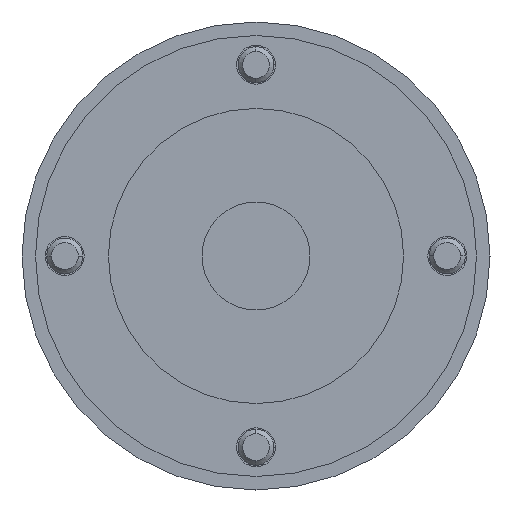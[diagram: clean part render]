
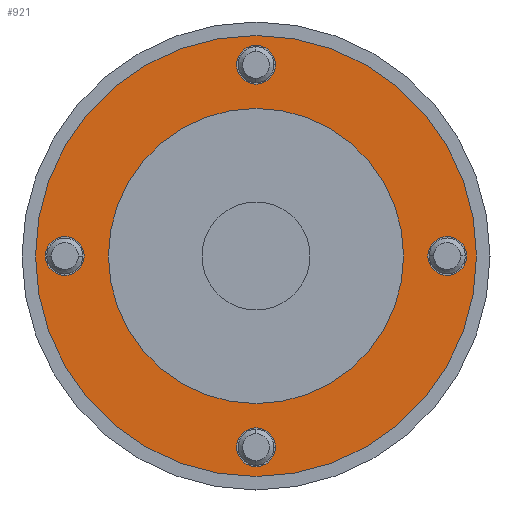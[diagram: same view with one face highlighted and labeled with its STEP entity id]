
A CAD part, left-side view. The second image highlights one B-rep face of the part: STEP entity #921.
In plain terms, the highlighted planar face has unit normal (-1, 0, 0).
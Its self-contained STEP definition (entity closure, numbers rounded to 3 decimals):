
#101 = VERTEX_POINT ( 'NONE', #1828 ) ;
#104 = EDGE_CURVE ( 'NONE', #119, #123, #1825, .T. ) ;
#119 = VERTEX_POINT ( 'NONE', #1743 ) ;
#123 = VERTEX_POINT ( 'NONE', #1728 ) ;
#305 = EDGE_CURVE ( 'NONE', #313, #306, #2185, .T. ) ;
#306 = VERTEX_POINT ( 'NONE', #2200 ) ;
#313 = VERTEX_POINT ( 'NONE', #2283 ) ;
#321 = VERTEX_POINT ( 'NONE', #2294 ) ;
#344 = VERTEX_POINT ( 'NONE', #2417 ) ;
#345 = VERTEX_POINT ( 'NONE', #2416 ) ;
#363 = EDGE_CURVE ( 'NONE', #344, #345, #2472, .T. ) ;
#380 = EDGE_CURVE ( 'NONE', #321, #101, #2356, .T. ) ;
#444 = VERTEX_POINT ( 'NONE', #2501 ) ;
#445 = EDGE_CURVE ( 'NONE', #458, #444, #2499, .T. ) ;
#458 = VERTEX_POINT ( 'NONE', #2602 ) ;
#666 = EDGE_CURVE ( 'NONE', #667, #668, #3150, .T. ) ;
#667 = VERTEX_POINT ( 'NONE', #3152 ) ;
#668 = VERTEX_POINT ( 'NONE', #3156 ) ;
#800 = ORIENTED_EDGE ( 'NONE', *, *, #666, .T. ) ;
#856 = ORIENTED_EDGE ( 'NONE', *, *, #888, .T. ) ;
#886 = EDGE_LOOP ( 'NONE', ( #923, #925 ) ) ;
#888 = EDGE_CURVE ( 'NONE', #345, #344, #3397, .T. ) ;
#889 = ORIENTED_EDGE ( 'NONE', *, *, #104, .T. ) ;
#890 = EDGE_CURVE ( 'NONE', #306, #313, #3431, .T. ) ;
#911 = EDGE_LOOP ( 'NONE', ( #856, #916 ) ) ;
#913 = EDGE_CURVE ( 'NONE', #101, #321, #3446, .T. ) ;
#915 = EDGE_CURVE ( 'NONE', #444, #458, #3488, .T. ) ;
#916 = ORIENTED_EDGE ( 'NONE', *, *, #363, .T. ) ;
#919 = ORIENTED_EDGE ( 'NONE', *, *, #890, .T. ) ;
#920 = EDGE_LOOP ( 'NONE', ( #922, #889 ) ) ;
#921 = ADVANCED_FACE ( 'NONE', ( #3492, #3487, #3475, #3474, #3482, #3481 ), #3307, .F. ) ;
#922 = ORIENTED_EDGE ( 'NONE', *, *, #926, .T. ) ;
#923 = ORIENTED_EDGE ( 'NONE', *, *, #913, .T. ) ;
#924 = EDGE_LOOP ( 'NONE', ( #919, #937 ) ) ;
#925 = ORIENTED_EDGE ( 'NONE', *, *, #380, .T. ) ;
#926 = EDGE_CURVE ( 'NONE', #123, #119, #3280, .T. ) ;
#935 = EDGE_LOOP ( 'NONE', ( #936, #955 ) ) ;
#936 = ORIENTED_EDGE ( 'NONE', *, *, #915, .F. ) ;
#937 = ORIENTED_EDGE ( 'NONE', *, *, #305, .T. ) ;
#939 = ORIENTED_EDGE ( 'NONE', *, *, #1069, .T. ) ;
#953 = EDGE_LOOP ( 'NONE', ( #939, #800 ) ) ;
#955 = ORIENTED_EDGE ( 'NONE', *, *, #445, .F. ) ;
#1069 = EDGE_CURVE ( 'NONE', #668, #667, #3806, .T. ) ;
#1686 = DIRECTION ( 'NONE',  ( 0., 0., -1. ) ) ;
#1687 = DIRECTION ( 'NONE',  ( 1., 0., 0. ) ) ;
#1688 = CARTESIAN_POINT ( 'NONE',  ( 2., 0., -21.25 ) ) ;
#1728 = CARTESIAN_POINT ( 'NONE',  ( 2., 0., -23.4 ) ) ;
#1743 = CARTESIAN_POINT ( 'NONE',  ( 2., 0., -19.1 ) ) ;
#1825 = CIRCLE ( 'NONE', #1841, 2.15 ) ;
#1828 = CARTESIAN_POINT ( 'NONE',  ( 2., 21.25, -2.15 ) ) ;
#1841 = AXIS2_PLACEMENT_3D ( 'NONE', #1688, #1687, #1686 ) ;
#2180 = DIRECTION ( 'NONE',  ( 0., 0., -1. ) ) ;
#2181 = DIRECTION ( 'NONE',  ( 1., 0., 0. ) ) ;
#2182 = CARTESIAN_POINT ( 'NONE',  ( 2., -21.25, 0. ) ) ;
#2185 = CIRCLE ( 'NONE', #2193, 2.15 ) ;
#2193 = AXIS2_PLACEMENT_3D ( 'NONE', #2182, #2181, #2180 ) ;
#2200 = CARTESIAN_POINT ( 'NONE',  ( 2., -21.25, -2.15 ) ) ;
#2283 = CARTESIAN_POINT ( 'NONE',  ( 2., -21.25, 2.15 ) ) ;
#2294 = CARTESIAN_POINT ( 'NONE',  ( 2., 21.25, 2.15 ) ) ;
#2326 = DIRECTION ( 'NONE',  ( 0., 0., -1. ) ) ;
#2327 = DIRECTION ( 'NONE',  ( 1., 0., 0. ) ) ;
#2328 = AXIS2_PLACEMENT_3D ( 'NONE', #2343, #2327, #2326 ) ;
#2343 = CARTESIAN_POINT ( 'NONE',  ( 2., 21.25, 0. ) ) ;
#2356 = CIRCLE ( 'NONE', #2328, 2.15 ) ;
#2416 = CARTESIAN_POINT ( 'NONE',  ( 2., 0., 19.1 ) ) ;
#2417 = CARTESIAN_POINT ( 'NONE',  ( 2., 0., 23.4 ) ) ;
#2465 = DIRECTION ( 'NONE',  ( 0., 0., -1. ) ) ;
#2466 = DIRECTION ( 'NONE',  ( 1., 0., 0. ) ) ;
#2467 = CARTESIAN_POINT ( 'NONE',  ( 2., 0., 21.25 ) ) ;
#2472 = CIRCLE ( 'NONE', #2478, 2.15 ) ;
#2478 = AXIS2_PLACEMENT_3D ( 'NONE', #2467, #2466, #2465 ) ;
#2499 = CIRCLE ( 'NONE', #2514, 16.4 ) ;
#2501 = CARTESIAN_POINT ( 'NONE',  ( 2., 0., 16.4 ) ) ;
#2514 = AXIS2_PLACEMENT_3D ( 'NONE', #2573, #2572, #2571 ) ;
#2571 = DIRECTION ( 'NONE',  ( 0., 0., 1. ) ) ;
#2572 = DIRECTION ( 'NONE',  ( -1., 0., 0. ) ) ;
#2573 = CARTESIAN_POINT ( 'NONE',  ( 2., 0., 0. ) ) ;
#2602 = CARTESIAN_POINT ( 'NONE',  ( 2., 0., -16.4 ) ) ;
#3141 = DIRECTION ( 'NONE',  ( 0., 0., 1. ) ) ;
#3142 = DIRECTION ( 'NONE',  ( -1., 0., 0. ) ) ;
#3143 = CARTESIAN_POINT ( 'NONE',  ( 2., 0., 0. ) ) ;
#3144 = AXIS2_PLACEMENT_3D ( 'NONE', #3143, #3142, #3141 ) ;
#3150 = CIRCLE ( 'NONE', #3144, 24.5 ) ;
#3152 = CARTESIAN_POINT ( 'NONE',  ( 2., 0., -24.5 ) ) ;
#3156 = CARTESIAN_POINT ( 'NONE',  ( 2., 0., 24.5 ) ) ;
#3212 = CARTESIAN_POINT ( 'NONE',  ( 2., 24.5, 0. ) ) ;
#3276 = DIRECTION ( 'NONE',  ( 0., 0., -1. ) ) ;
#3280 = CIRCLE ( 'NONE', #3312, 2.15 ) ;
#3283 = DIRECTION ( 'NONE',  ( 1., 0., 0. ) ) ;
#3288 = AXIS2_PLACEMENT_3D ( 'NONE', #3212, #3283, #3276 ) ;
#3307 = PLANE ( 'NONE',  #3288 ) ;
#3309 = DIRECTION ( 'NONE',  ( 0., 0., -1. ) ) ;
#3310 = DIRECTION ( 'NONE',  ( 1., 0., 0. ) ) ;
#3311 = CARTESIAN_POINT ( 'NONE',  ( 2., 0., -21.25 ) ) ;
#3312 = AXIS2_PLACEMENT_3D ( 'NONE', #3311, #3310, #3309 ) ;
#3397 = CIRCLE ( 'NONE', #3398, 2.15 ) ;
#3398 = AXIS2_PLACEMENT_3D ( 'NONE', #3436, #3435, #3434 ) ;
#3427 = DIRECTION ( 'NONE',  ( 0., 0., -1. ) ) ;
#3428 = DIRECTION ( 'NONE',  ( 1., 0., 0. ) ) ;
#3429 = CARTESIAN_POINT ( 'NONE',  ( 2., -21.25, 0. ) ) ;
#3430 = AXIS2_PLACEMENT_3D ( 'NONE', #3429, #3428, #3427 ) ;
#3431 = CIRCLE ( 'NONE', #3430, 2.15 ) ;
#3434 = DIRECTION ( 'NONE',  ( 0., 0., -1. ) ) ;
#3435 = DIRECTION ( 'NONE',  ( 1., 0., 0. ) ) ;
#3436 = CARTESIAN_POINT ( 'NONE',  ( 2., 0., 21.25 ) ) ;
#3446 = CIRCLE ( 'NONE', #3486, 2.15 ) ;
#3474 = FACE_BOUND ( 'NONE', #911, .T. ) ;
#3475 = FACE_BOUND ( 'NONE', #924, .T. ) ;
#3476 = DIRECTION ( 'NONE',  ( 0., 0., 1. ) ) ;
#3477 = DIRECTION ( 'NONE',  ( -1., 0., 0. ) ) ;
#3478 = CARTESIAN_POINT ( 'NONE',  ( 2., 0., 0. ) ) ;
#3479 = AXIS2_PLACEMENT_3D ( 'NONE', #3478, #3477, #3476 ) ;
#3481 = FACE_OUTER_BOUND ( 'NONE', #953, .T. ) ;
#3482 = FACE_BOUND ( 'NONE', #935, .T. ) ;
#3483 = DIRECTION ( 'NONE',  ( 0., 0., -1. ) ) ;
#3484 = DIRECTION ( 'NONE',  ( 1., 0., 0. ) ) ;
#3485 = CARTESIAN_POINT ( 'NONE',  ( 2., 21.25, 0. ) ) ;
#3486 = AXIS2_PLACEMENT_3D ( 'NONE', #3485, #3484, #3483 ) ;
#3487 = FACE_BOUND ( 'NONE', #920, .T. ) ;
#3488 = CIRCLE ( 'NONE', #3479, 16.4 ) ;
#3492 = FACE_BOUND ( 'NONE', #886, .T. ) ;
#3804 = CARTESIAN_POINT ( 'NONE',  ( 2., 0., 0. ) ) ;
#3806 = CIRCLE ( 'NONE', #3811, 24.5 ) ;
#3811 = AXIS2_PLACEMENT_3D ( 'NONE', #3804, #3885, #3884 ) ;
#3884 = DIRECTION ( 'NONE',  ( 0., 0., 1. ) ) ;
#3885 = DIRECTION ( 'NONE',  ( -1., 0., 0. ) ) ;
